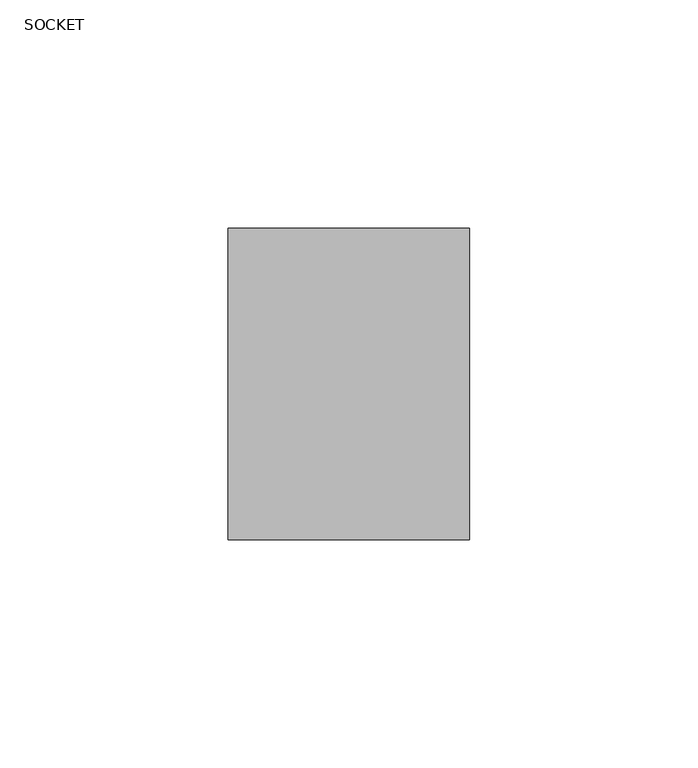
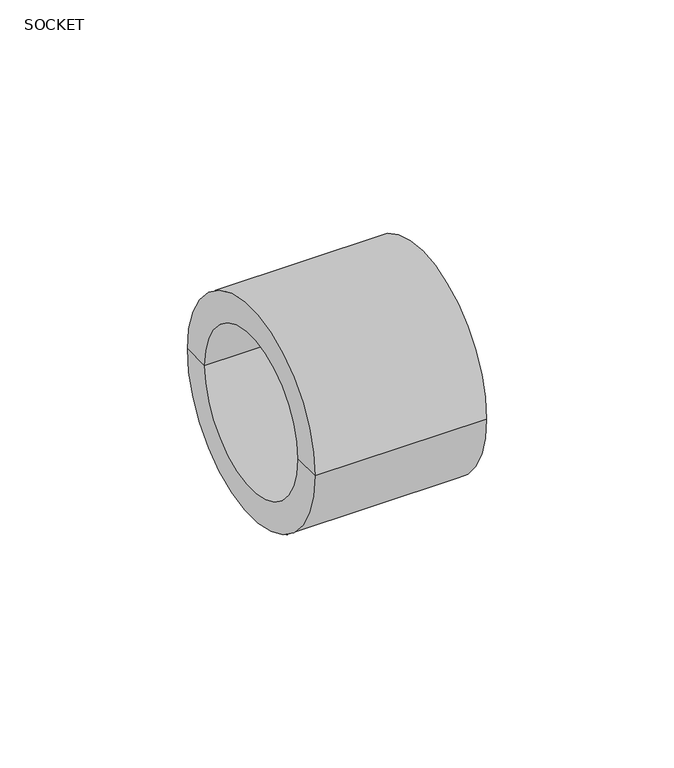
"""IFC4 building model written with IfcOpenShell, lengths in millimetres: pipe fitting geometry, Aquatherm - Coupling Socket : SOCKET."""

from ifc_helpers import new_model, si_unit, frame, origin, place, context, project, spatial, polyline, circle_curve, source, transform, mapped, element, save
from ifc_brep_helpers import plane_surface, cylinder_surface, revolved_surface, advanced_brep


def socket_15948e89(model_context):
    return source(origin(), model_context, "Body", "AdvancedBrep", [
        advanced_brep(
        [(-26.416, -25.019, 0.0), (-26.416, 25.019, 0.0), (-26.416, 34.036, 0.0), (-26.416, -34.036, 0.0), (-3.048, -25.019, 0.0), (-3.048, 25.019, 0.0), (-3.048, -18.923, 0.0), (-3.048, 18.923, 0.0), (3.048, -18.923, 0.0), (3.048, 18.923, 0.0), (3.048, -25.019, 0.0), (3.048, 25.019, 0.0), (26.416, -25.019, 0.0), (26.416, 25.019, 0.0), (26.416, -34.036, 0.0), (26.416, 34.036, 0.0)],
        [
            (0, 1, circle_curve(frame((-26.416, 0.0, 0.0), z_axis=(1.0, 0.0, 0.0), x_axis=(0.0, 1.0, 0.0)), 25.019)),
            (1, 2),
            (2, 3, circle_curve(frame((-26.416, 0.0, 0.0), z_axis=(-1.0, 0.0, 0.0), x_axis=(0.0, 1.0, 0.0)), 34.036)),
            (3, 0),
            (1, 0, circle_curve(frame((-26.416, 0.0, 0.0), z_axis=(1.0, 0.0, 0.0), x_axis=(0.0, 1.0, 0.0)), 25.019)),
            (3, 2, circle_curve(frame((-26.416, 0.0, 0.0), z_axis=(-1.0, 0.0, 0.0), x_axis=(0.0, 1.0, 0.0)), 34.036)),
            (4, 5, circle_curve(frame((-3.048, 0.0, 0.0), z_axis=(1.0, 0.0, 0.0), x_axis=(0.0, 1.0, 0.0)), 25.019)),
            (5, 1),
            (0, 4),
            (5, 4, circle_curve(frame((-3.048, 0.0, 0.0), z_axis=(1.0, 0.0, 0.0), x_axis=(0.0, 1.0, 0.0)), 25.019)),
            (6, 7, circle_curve(frame((-3.048, 0.0, 0.0), z_axis=(1.0, 0.0, 0.0), x_axis=(0.0, 1.0, 0.0)), 18.923)),
            (7, 5),
            (4, 6),
            (7, 6, circle_curve(frame((-3.048, 0.0, 0.0), z_axis=(1.0, 0.0, 0.0), x_axis=(0.0, 1.0, 0.0)), 18.923)),
            (8, 9, circle_curve(frame((3.048, 0.0, 0.0), z_axis=(1.0, 0.0, 0.0), x_axis=(0.0, 1.0, 0.0)), 18.923)),
            (9, 7),
            (6, 8),
            (9, 8, circle_curve(frame((3.048, 0.0, 0.0), z_axis=(1.0, 0.0, 0.0), x_axis=(0.0, 1.0, 0.0)), 18.923)),
            (10, 11, circle_curve(frame((3.048, 0.0, 0.0), z_axis=(1.0, 0.0, 0.0), x_axis=(0.0, 1.0, 0.0)), 25.019)),
            (11, 9),
            (8, 10),
            (11, 10, circle_curve(frame((3.048, 0.0, 0.0), z_axis=(1.0, 0.0, 0.0), x_axis=(0.0, 1.0, 0.0)), 25.019)),
            (12, 13, circle_curve(frame((26.416, 0.0, 0.0), z_axis=(1.0, 0.0, 0.0), x_axis=(0.0, 1.0, 0.0)), 25.019)),
            (13, 11),
            (10, 12),
            (13, 12, circle_curve(frame((26.416, 0.0, 0.0), z_axis=(1.0, 0.0, 0.0), x_axis=(0.0, 1.0, 0.0)), 25.019)),
            (14, 15, circle_curve(frame((26.416, 0.0, 0.0), z_axis=(1.0, 0.0, 0.0), x_axis=(0.0, 1.0, 0.0)), 34.036)),
            (15, 13),
            (12, 14),
            (15, 14, circle_curve(frame((26.416, 0.0, 0.0), z_axis=(1.0, 0.0, 0.0), x_axis=(0.0, 1.0, 0.0)), 34.036)),
            (2, 15),
            (14, 3),
        ],
        [
            plane_surface(frame((-26.416, 0.0, 0.0), z_axis=(-1.0, 0.0, 0.0), x_axis=(0.0, 1.0, 0.0))),
            revolved_surface(polyline([(-26.416, 25.019, 0.0), (-3.048000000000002, 25.019, 0.0)]), (-42.7144022, 0.0, 0.0), (-1.0, 0.0, 0.0)),
            plane_surface(frame((-3.048, 0.0, 0.0), z_axis=(-1.0, 0.0, 0.0), x_axis=(0.0, 1.0, 0.0))),
            revolved_surface(polyline([(-3.048000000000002, 18.923, 0.0), (3.048000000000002, 18.923, 0.0)]), (-42.7144022, 0.0, 0.0), (-1.0, 0.0, 0.0)),
            plane_surface(frame((3.048, 0.0, 0.0), z_axis=(1.0, 0.0, 0.0), x_axis=(0.0, 1.0, 0.0))),
            revolved_surface(polyline([(3.048000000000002, 25.019, 0.0), (26.416000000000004, 25.019, 0.0)]), (-42.7144022, 0.0, 0.0), (-1.0, 0.0, 0.0)),
            plane_surface(frame((26.416, 0.0, 0.0), z_axis=(1.0, 0.0, 0.0), x_axis=(0.0, 1.0, 0.0))),
            cylinder_surface(frame((-42.7144022, 0.0, 0.0), z_axis=(-1.0, 0.0, 0.0), x_axis=(0.0, 1.0, 0.0)), 34.036),
        ],
        [
            (0, [[1, 2, 3, 4]]),
            (0, [[5, -4, 6, -2]]),
            (1, [[7, 8, -1, 9]]),
            (1, [[10, -9, -5, -8]]),
            (2, [[11, 12, -7, 13]]),
            (2, [[14, -13, -10, -12]]),
            (3, [[15, 16, -11, 17]]),
            (3, [[18, -17, -14, -16]]),
            (4, [[19, 20, -15, 21]]),
            (4, [[22, -21, -18, -20]]),
            (5, [[23, 24, -19, 25]]),
            (5, [[26, -25, -22, -24]]),
            (6, [[27, 28, -23, 29]]),
            (6, [[30, -29, -26, -28]]),
            (7, [[-3, 31, -27, 32]]),
            (7, [[-6, -32, -30, -31]]),
        ],
    ),
    ])


if __name__ == "__main__":
    model = new_model("IFC4")
    model_context = context("Model", 3, world=origin())
    ifc_project = project(units=[si_unit("LENGTHUNIT", "METRE", prefix="MILLI")], contexts=[model_context])
    site = spatial("IfcSite", under=ifc_project)
    building = spatial("IfcBuilding", under=site)
    placement = place(None, origin())
    ifc_socket_shape = socket_15948e89(model_context)
    element("IfcPipeFitting", 1, ObjectType="Aquatherm - Coupling Socket : SOCKET", at=placement, inside=building, context=model_context, shape_type="MappedRepresentation", body=[
        mapped(ifc_socket_shape, transform((0.0, 0.0, 0.0), x_axis=(1.0, 0.0, 0.0), y_axis=(0.0, 1.0, 0.0), z_axis=(0.0, 0.0, 1.0))),
    ])
    save(model, "model.ifc")
